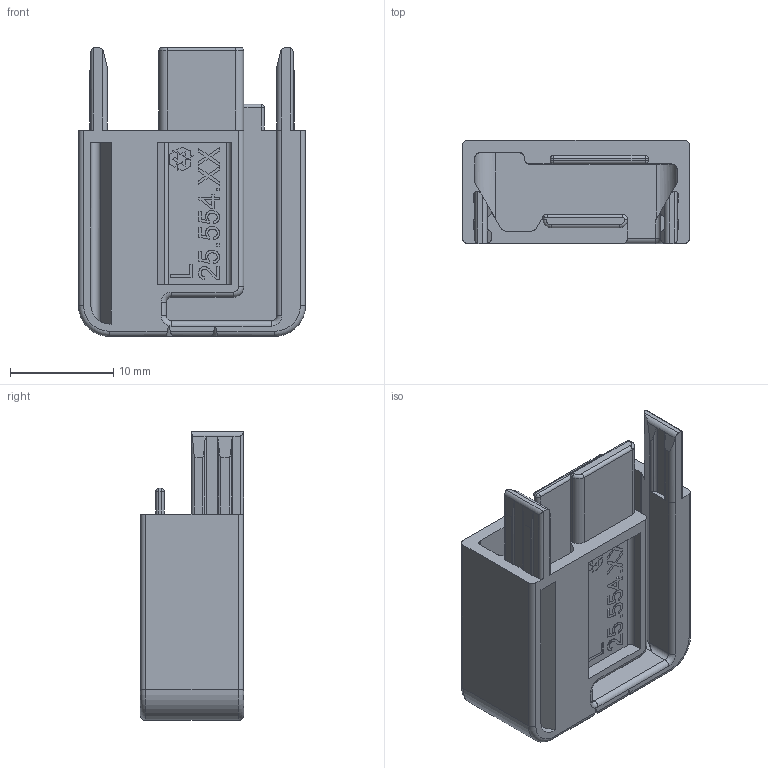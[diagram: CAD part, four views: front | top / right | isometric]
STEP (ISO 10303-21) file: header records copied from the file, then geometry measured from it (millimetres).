
FILE_DESCRIPTION (( 'STEP AP203' ), '1' );
FILE_NAME ('Endkappen_ChannelLine_G_L_24.STEP', '2024-11-29T05:39:53', ( '' ), ( '' ), 'SwSTEP 2.0', 'SolidWorks 2023', '' );
FILE_SCHEMA (( 'CONFIG_CONTROL_DESIGN' ));
Length unit declared in the file: millimetre
Products named in the file (1): Endkappen_ChannelLine_G_L_24
Bounding box: 22 x 10 x 28 mm (x, y, z)
Volume: 2279.5 mm3; surface area: 3042.8 mm2
Topology: 1 solids, 1 shells, 346 faces, 932 edges, 600 vertices
Faces by surface type: plane 194, cylinder 89, bspline 44, torus 13, sphere 4, cone 2
Entity records: 12462 total; most frequent: CARTESIAN_POINT 4053, ORIENTED_EDGE 1856, DIRECTION 1544, EDGE_CURVE 928, LINE 642, VECTOR 642, VERTEX_POINT 600, AXIS2_PLACEMENT_3D 451
